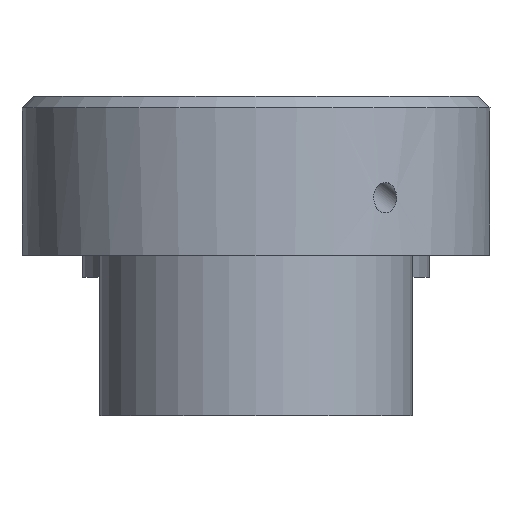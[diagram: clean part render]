
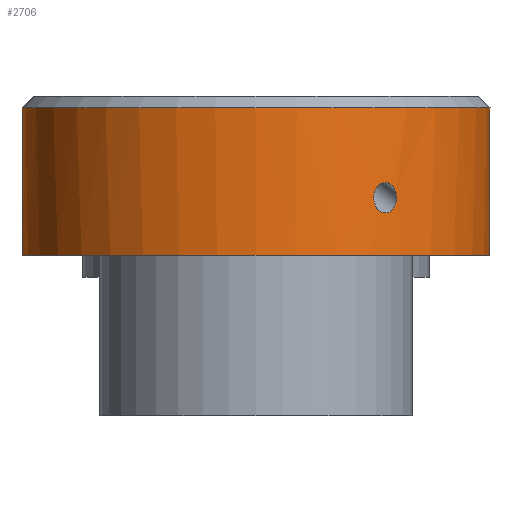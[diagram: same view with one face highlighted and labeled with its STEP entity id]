
A CAD part, left-side view. The second image highlights one B-rep face of the part: STEP entity #2706.
In plain terms, the highlighted cylindrical face has radius 52.5 mm (diameter 105 mm), a full revolution.
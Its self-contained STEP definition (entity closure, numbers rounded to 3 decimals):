
#124=B_SPLINE_CURVE_WITH_KNOTS('',3,(#5635,#5636,#5637,#5638,#5639,#5640,
#5641,#5642,#5643,#5644,#5645,#5646,#5647,#5648,#5649,#5650,#5651,#5652,
#5653,#5654,#5655,#5656,#5657,#5658,#5659,#5660,#5661,#5662,#5663,#5664,
#5665,#5666,#5667,#5668),.UNSPECIFIED.,.F.,.F.,(4,2,2,2,2,2,2,2,2,2,2,2,
2,2,2,2,4),(0.,0.126,0.253,0.372,0.492,
0.612,0.733,0.86,0.987,
1.115,1.242,1.358,1.474,1.59,
1.707,1.835,1.957),.UNSPECIFIED.);
#125=B_SPLINE_CURVE_WITH_KNOTS('',3,(#5669,#5670,#5671,#5672),
 .UNSPECIFIED.,.F.,.F.,(4,4),(1.957,1.963),
 .UNSPECIFIED.);
#157=FACE_BOUND('',#526,.T.);
#354=FACE_OUTER_BOUND('',#525,.T.);
#525=EDGE_LOOP('',(#2328,#2329,#2330,#2331,#2332,#2333,#2334,#2335));
#526=EDGE_LOOP('',(#2336,#2337));
#619=LINE('',#4691,#827);
#637=LINE('',#5686,#845);
#750=LINE('',#6067,#958);
#827=VECTOR('',#3113,10.);
#845=VECTOR('',#3187,10.);
#958=VECTOR('',#3510,52.5);
#1017=CIRCLE('',#2815,52.5);
#1036=CIRCLE('',#2862,52.5);
#1037=CIRCLE('',#2863,52.5);
#1070=CIRCLE('',#2934,52.5);
#1162=VERTEX_POINT('',#4686);
#1163=VERTEX_POINT('',#4690);
#1182=VERTEX_POINT('',#4907);
#1206=VERTEX_POINT('',#5632);
#1207=VERTEX_POINT('',#5634);
#1209=VERTEX_POINT('',#5685);
#1241=VERTEX_POINT('',#5794);
#1324=VERTEX_POINT('',#6065);
#1451=EDGE_CURVE('',#1162,#1163,#619,.T.);
#1475=EDGE_CURVE('',#1182,#1163,#1017,.T.);
#1507=EDGE_CURVE('',#1207,#1206,#124,.T.);
#1508=EDGE_CURVE('',#1206,#1207,#125,.T.);
#1512=EDGE_CURVE('',#1209,#1182,#637,.T.);
#1565=EDGE_CURVE('',#1241,#1209,#1036,.T.);
#1566=EDGE_CURVE('',#1162,#1241,#1037,.T.);
#1685=EDGE_CURVE('',#1324,#1324,#1070,.T.);
#1686=EDGE_CURVE('',#1324,#1241,#750,.T.);
#2328=ORIENTED_EDGE('',*,*,#1685,.F.);
#2329=ORIENTED_EDGE('',*,*,#1686,.T.);
#2330=ORIENTED_EDGE('',*,*,#1565,.T.);
#2331=ORIENTED_EDGE('',*,*,#1512,.T.);
#2332=ORIENTED_EDGE('',*,*,#1475,.T.);
#2333=ORIENTED_EDGE('',*,*,#1451,.F.);
#2334=ORIENTED_EDGE('',*,*,#1566,.T.);
#2335=ORIENTED_EDGE('',*,*,#1686,.F.);
#2336=ORIENTED_EDGE('',*,*,#1507,.T.);
#2337=ORIENTED_EDGE('',*,*,#1508,.T.);
#2583=CYLINDRICAL_SURFACE('',#2933,52.5);
#2706=ADVANCED_FACE('',(#354,#157),#2583,.T.);
#2815=AXIS2_PLACEMENT_3D('',#4908,#3149,#3150);
#2862=AXIS2_PLACEMENT_3D('',#5795,#3293,#3294);
#2863=AXIS2_PLACEMENT_3D('',#5796,#3295,#3296);
#2933=AXIS2_PLACEMENT_3D('',#6064,#3506,#3507);
#2934=AXIS2_PLACEMENT_3D('',#6066,#3508,#3509);
#3113=DIRECTION('',(0.,0.,1.));
#3149=DIRECTION('center_axis',(0.,0.,1.));
#3150=DIRECTION('ref_axis',(1.,0.,0.));
#3187=DIRECTION('',(0.,0.,1.));
#3293=DIRECTION('center_axis',(0.,0.,1.));
#3294=DIRECTION('ref_axis',(1.,0.,0.));
#3295=DIRECTION('center_axis',(0.,0.,1.));
#3296=DIRECTION('ref_axis',(1.,0.,0.));
#3506=DIRECTION('center_axis',(0.,0.,1.));
#3507=DIRECTION('ref_axis',(1.,0.,0.));
#3508=DIRECTION('center_axis',(0.,0.,1.));
#3509=DIRECTION('ref_axis',(1.,0.,0.));
#3510=DIRECTION('',(0.,0.,-1.));
#4686=CARTESIAN_POINT('',(-53.746,207.178,0.));
#4690=CARTESIAN_POINT('',(-53.746,207.178,25.));
#4691=CARTESIAN_POINT('',(-53.746,207.178,0.));
#4907=CARTESIAN_POINT('',(-53.746,112.667,25.));
#4908=CARTESIAN_POINT('Origin',(-76.619,159.923,25.));
#5632=CARTESIAN_POINT('',(-118.583,128.374,12.938));
#5634=CARTESIAN_POINT('',(-118.582,128.373,12.874));
#5635=CARTESIAN_POINT('Ctrl Pts',(-118.582,128.373,12.874));
#5636=CARTESIAN_POINT('Ctrl Pts',(-118.582,128.373,12.452));
#5637=CARTESIAN_POINT('Ctrl Pts',(-118.628,128.433,11.999));
#5638=CARTESIAN_POINT('Ctrl Pts',(-118.814,128.684,11.156));
#5639=CARTESIAN_POINT('Ctrl Pts',(-118.956,128.875,10.766));
#5640=CARTESIAN_POINT('Ctrl Pts',(-119.278,129.32,10.158));
#5641=CARTESIAN_POINT('Ctrl Pts',(-119.478,129.599,9.894));
#5642=CARTESIAN_POINT('Ctrl Pts',(-119.914,130.225,9.542));
#5643=CARTESIAN_POINT('Ctrl Pts',(-120.151,130.573,9.455));
#5644=CARTESIAN_POINT('Ctrl Pts',(-120.593,131.24,9.464));
#5645=CARTESIAN_POINT('Ctrl Pts',(-120.822,131.594,9.562));
#5646=CARTESIAN_POINT('Ctrl Pts',(-121.229,132.239,9.931));
#5647=CARTESIAN_POINT('Ctrl Pts',(-121.408,132.531,10.203));
#5648=CARTESIAN_POINT('Ctrl Pts',(-121.691,133.,10.82));
#5649=CARTESIAN_POINT('Ctrl Pts',(-121.812,133.205,11.215));
#5650=CARTESIAN_POINT('Ctrl Pts',(-121.972,133.476,12.064));
#5651=CARTESIAN_POINT('Ctrl Pts',(-122.01,133.542,12.519));
#5652=CARTESIAN_POINT('Ctrl Pts',(-122.01,133.542,13.368));
#5653=CARTESIAN_POINT('Ctrl Pts',(-121.971,133.475,13.824));
#5654=CARTESIAN_POINT('Ctrl Pts',(-121.807,133.195,14.667));
#5655=CARTESIAN_POINT('Ctrl Pts',(-121.68,132.981,15.054));
#5656=CARTESIAN_POINT('Ctrl Pts',(-121.388,132.499,15.636));
#5657=CARTESIAN_POINT('Ctrl Pts',(-121.209,132.208,15.88));
#5658=CARTESIAN_POINT('Ctrl Pts',(-120.808,131.572,16.201));
#5659=CARTESIAN_POINT('Ctrl Pts',(-120.585,131.227,16.279));
#5660=CARTESIAN_POINT('Ctrl Pts',(-120.157,130.582,16.27));
#5661=CARTESIAN_POINT('Ctrl Pts',(-119.925,130.242,16.182));
#5662=CARTESIAN_POINT('Ctrl Pts',(-119.497,129.626,15.844));
#5663=CARTESIAN_POINT('Ctrl Pts',(-119.299,129.349,15.593));
#5664=CARTESIAN_POINT('Ctrl Pts',(-118.97,128.895,15.));
#5665=CARTESIAN_POINT('Ctrl Pts',(-118.823,128.696,14.609));
#5666=CARTESIAN_POINT('Ctrl Pts',(-118.634,128.442,13.781));
#5667=CARTESIAN_POINT('Ctrl Pts',(-118.587,128.379,13.347));
#5668=CARTESIAN_POINT('Ctrl Pts',(-118.583,128.374,12.938));
#5669=CARTESIAN_POINT('Ctrl Pts',(-118.583,128.374,12.938));
#5670=CARTESIAN_POINT('Ctrl Pts',(-118.582,128.374,12.916));
#5671=CARTESIAN_POINT('Ctrl Pts',(-118.582,128.373,12.895));
#5672=CARTESIAN_POINT('Ctrl Pts',(-118.582,128.373,12.874));
#5685=CARTESIAN_POINT('',(-53.746,112.667,0.));
#5686=CARTESIAN_POINT('',(-53.746,112.667,0.));
#5794=CARTESIAN_POINT('',(-129.119,159.923,0.));
#5795=CARTESIAN_POINT('Origin',(-76.619,159.923,0.));
#5796=CARTESIAN_POINT('Origin',(-76.619,159.923,0.));
#6064=CARTESIAN_POINT('Origin',(-76.619,159.923,0.));
#6065=CARTESIAN_POINT('',(-129.119,159.923,33.1));
#6066=CARTESIAN_POINT('Origin',(-76.619,159.923,33.1));
#6067=CARTESIAN_POINT('',(-129.119,159.923,0.));
